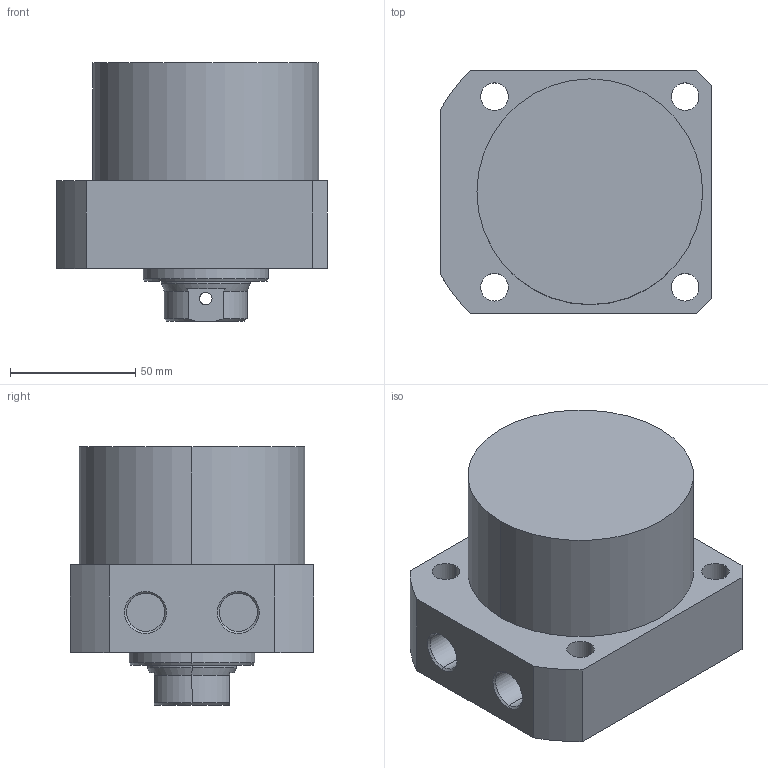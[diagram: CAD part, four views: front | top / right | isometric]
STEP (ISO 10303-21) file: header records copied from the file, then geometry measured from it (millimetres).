
FILE_DESCRIPTION (( 'STEP AP203' ), '1' );
FILE_NAME ('CLLR-090CB-025.STEP', '2019-12-19T02:26:29', ( '' ), ( '' ), 'SwSTEP 2.0', 'SolidWorks 2015', '' );
FILE_SCHEMA (( 'CONFIG_CONTROL_DESIGN' ));
Length unit declared in the file: millimetre
Products named in the file (1): CLLR-090CB-025
Bounding box: 108 x 97 x 103 mm (x, y, z)
Volume: 649015.2 mm3; surface area: 58474.6 mm2
Topology: 1 solids, 1 shells, 67 faces, 161 edges, 102 vertices
Faces by surface type: cylinder 33, plane 19, cone 15
Entity records: 2179 total; most frequent: CARTESIAN_POINT 477, DIRECTION 360, ORIENTED_EDGE 318, EDGE_CURVE 159, AXIS2_PLACEMENT_3D 145, VERTEX_POINT 102, EDGE_LOOP 87, CIRCLE 77
